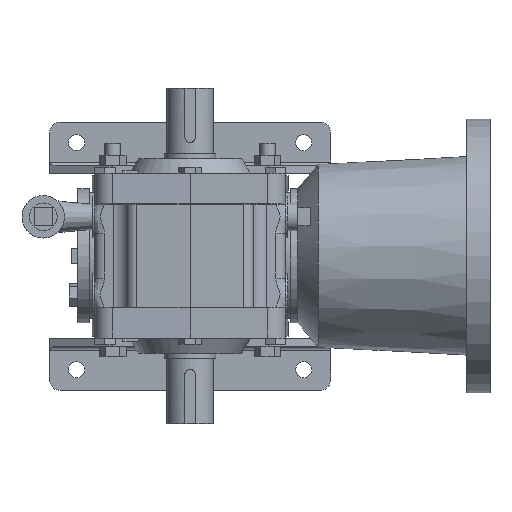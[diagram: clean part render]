
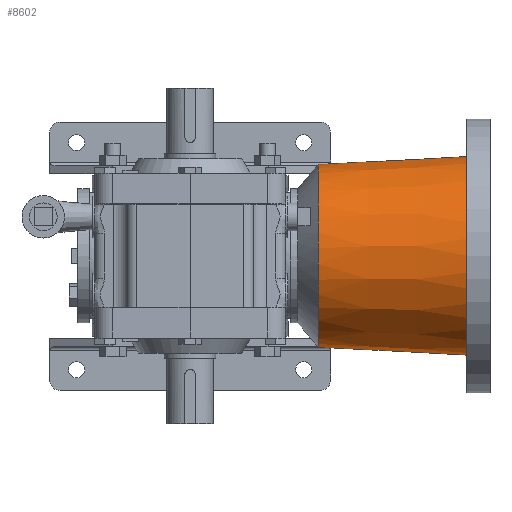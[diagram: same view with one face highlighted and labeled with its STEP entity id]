
A CAD part, top view. The second image highlights one B-rep face of the part: STEP entity #8602.
In plain terms, the highlighted conical face has half-angle 3 degrees and reference radius 61.109 mm.
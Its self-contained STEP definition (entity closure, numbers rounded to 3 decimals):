
#74=CONICAL_SURFACE('',#10455,61.109,0.052);
#197=B_SPLINE_CURVE_WITH_KNOTS('',3,(#16503,#16504,#16505,#16506,#16507,
#16508,#16509,#16510,#16511,#16512),.UNSPECIFIED.,.F.,.F.,(4,1,1,1,1,1,
1,4),(0.,0.002,0.005,0.007,
0.01,0.012,0.015,0.02),
 .UNSPECIFIED.);
#198=B_SPLINE_CURVE_WITH_KNOTS('',3,(#16515,#16516,#16517,#16518),
 .UNSPECIFIED.,.F.,.F.,(4,4),(0.037,0.118),
 .UNSPECIFIED.);
#199=B_SPLINE_CURVE_WITH_KNOTS('',3,(#16522,#16523,#16524,#16525),
 .UNSPECIFIED.,.F.,.F.,(4,4),(0.098,0.179),
 .UNSPECIFIED.);
#3759=ORIENTED_EDGE('',*,*,#5152,.T.);
#3760=ORIENTED_EDGE('',*,*,#5153,.T.);
#3761=ORIENTED_EDGE('',*,*,#5154,.F.);
#3762=ORIENTED_EDGE('',*,*,#5155,.T.);
#3763=ORIENTED_EDGE('',*,*,#5156,.T.);
#5152=EDGE_CURVE('',#6019,#6020,#197,.T.);
#5153=EDGE_CURVE('',#6020,#6021,#198,.T.);
#5154=EDGE_CURVE('',#6022,#6021,#6396,.T.);
#5155=EDGE_CURVE('',#6022,#6019,#199,.T.);
#5156=EDGE_CURVE('',#6023,#6023,#6397,.T.);
#6019=VERTEX_POINT('',#16513);
#6020=VERTEX_POINT('',#16514);
#6021=VERTEX_POINT('',#16519);
#6022=VERTEX_POINT('',#16521);
#6023=VERTEX_POINT('',#16527);
#6396=CIRCLE('',#10456,56.327);
#6397=CIRCLE('',#10457,61.109);
#6979=EDGE_LOOP('',(#3759,#3760,#3761,#3762));
#6980=EDGE_LOOP('',(#3763));
#7682=FACE_BOUND('',#6979,.T.);
#7683=FACE_BOUND('',#6980,.T.);
#8602=ADVANCED_FACE('',(#7682,#7683),#74,.T.);
#10455=AXIS2_PLACEMENT_3D('',#16502,#12519,#12520);
#10456=AXIS2_PLACEMENT_3D('',#16520,#12521,#12522);
#10457=AXIS2_PLACEMENT_3D('',#16526,#12523,#12524);
#12519=DIRECTION('',(1.,0.,0.));
#12520=DIRECTION('',(0.,0.,-1.));
#12521=DIRECTION('',(-1.,0.,0.));
#12522=DIRECTION('',(0.,0.,1.));
#12523=DIRECTION('',(-1.,0.,0.));
#12524=DIRECTION('',(0.,0.,1.));
#16502=CARTESIAN_POINT('',(108.255,0.,0.));
#16503=CARTESIAN_POINT('',(97.384,-6.078,-60.233));
#16504=CARTESIAN_POINT('',(98.224,-6.078,-60.277));
#16505=CARTESIAN_POINT('',(99.876,-5.746,-60.399));
#16506=CARTESIAN_POINT('',(101.988,-4.337,-60.634));
#16507=CARTESIAN_POINT('',(103.4,-2.228,-60.829));
#16508=CARTESIAN_POINT('',(103.9,0.269,-60.898));
#16509=CARTESIAN_POINT('',(103.403,2.766,-60.807));
#16510=CARTESIAN_POINT('',(101.518,5.589,-60.52));
#16511=CARTESIAN_POINT('',(99.063,6.622,-60.264));
#16512=CARTESIAN_POINT('',(97.384,6.622,-60.176));
#16513=CARTESIAN_POINT('',(97.384,-6.078,-60.233));
#16514=CARTESIAN_POINT('',(97.384,6.622,-60.176));
#16515=CARTESIAN_POINT('',(97.384,6.622,-60.176));
#16516=CARTESIAN_POINT('',(70.595,6.622,-58.763));
#16517=CARTESIAN_POINT('',(43.807,6.622,-57.35));
#16518=CARTESIAN_POINT('',(17.018,6.622,-55.937));
#16519=CARTESIAN_POINT('',(17.018,6.622,-55.937));
#16520=CARTESIAN_POINT('',(17.018,0.,0.));
#16521=CARTESIAN_POINT('',(17.018,-6.078,-55.998));
#16522=CARTESIAN_POINT('',(17.018,-6.078,-55.998));
#16523=CARTESIAN_POINT('',(43.807,-6.078,-57.41));
#16524=CARTESIAN_POINT('',(70.595,-6.078,-58.822));
#16525=CARTESIAN_POINT('',(97.384,-6.078,-60.233));
#16526=CARTESIAN_POINT('',(108.255,0.,0.));
#16527=CARTESIAN_POINT('',(108.255,0.,61.109));
